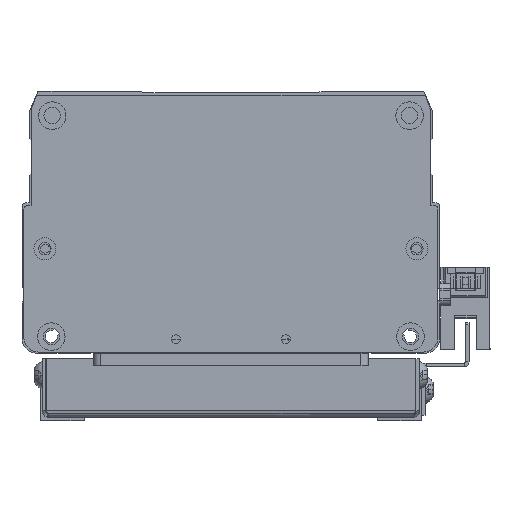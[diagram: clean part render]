
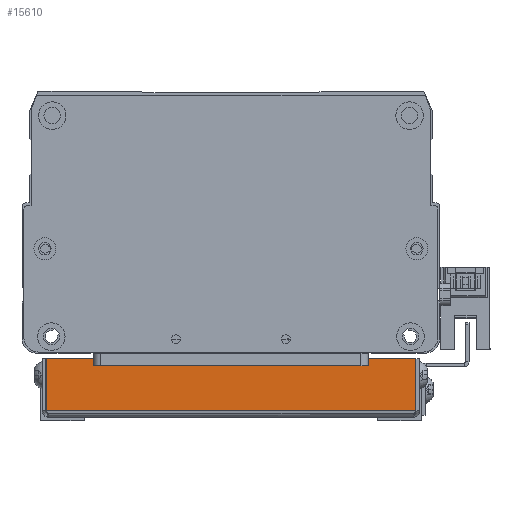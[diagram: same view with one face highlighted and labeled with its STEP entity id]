
A CAD part, front view. The second image highlights one B-rep face of the part: STEP entity #15610.
In plain terms, the highlighted planar face has unit normal (0, -1, 0) as drawn and (0, 0, -1) by its records, which use the part's own axes.
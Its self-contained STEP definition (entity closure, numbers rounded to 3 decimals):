
#637 = CARTESIAN_POINT ( 'NONE',  ( 184.072, 128.497, -9.273 ) ) ;
#1480 = ORIENTED_EDGE ( 'NONE', *, *, #25748, .F. ) ;
#2643 = VECTOR ( 'NONE', #26203, 1000. ) ;
#3484 = ORIENTED_EDGE ( 'NONE', *, *, #11160, .T. ) ;
#3902 = CARTESIAN_POINT ( 'NONE',  ( 83.272, 142.76, -9.273 ) ) ;
#4129 = VERTEX_POINT ( 'NONE', #6941 ) ;
#4223 = VERTEX_POINT ( 'NONE', #24132 ) ;
#4454 = ORIENTED_EDGE ( 'NONE', *, *, #26242, .F. ) ;
#4535 = CARTESIAN_POINT ( 'NONE',  ( 83.272, 142.76, -9.273 ) ) ;
#5396 = ORIENTED_EDGE ( 'NONE', *, *, #25809, .F. ) ;
#6455 = DIRECTION ( 'NONE',  ( 1., 0., 0. ) ) ;
#6941 = CARTESIAN_POINT ( 'NONE',  ( 184.072, 142.76, -9.273 ) ) ;
#8043 = DIRECTION ( 'NONE',  ( -1., 0., 0. ) ) ;
#8220 = VERTEX_POINT ( 'NONE', #4535 ) ;
#9284 = VERTEX_POINT ( 'NONE', #637 ) ;
#11034 = CARTESIAN_POINT ( 'NONE',  ( 83.172, 128.497, -9.273 ) ) ;
#11120 = FACE_OUTER_BOUND ( 'NONE', #20453, .T. ) ;
#11160 = EDGE_CURVE ( 'NONE', #4129, #9284, #11667, .T. ) ;
#11640 = LINE ( 'NONE', #3902, #2643 ) ;
#11667 = LINE ( 'NONE', #21339, #22664 ) ;
#12124 = CARTESIAN_POINT ( 'NONE',  ( 262.181, 142.76, -9.273 ) ) ;
#15126 = DIRECTION ( 'NONE',  ( 0., -1., 0. ) ) ;
#15610 = ADVANCED_FACE ( 'NONE', ( #11120 ), #26154, .F. ) ;
#16115 = LINE ( 'NONE', #12124, #19584 ) ;
#16997 = DIRECTION ( 'NONE',  ( 0., 0., 1. ) ) ;
#17093 = CARTESIAN_POINT ( 'NONE',  ( 262.181, 144.497, -9.273 ) ) ;
#19584 = VECTOR ( 'NONE', #8043, 1000. ) ;
#20453 = EDGE_LOOP ( 'NONE', ( #1480, #3484, #4454, #5396 ) ) ;
#21339 = CARTESIAN_POINT ( 'NONE',  ( 184.072, 142.76, -9.273 ) ) ;
#22664 = VECTOR ( 'NONE', #28048, 1000. ) ;
#22825 = AXIS2_PLACEMENT_3D ( 'NONE', #17093, #16997, #15126 ) ;
#24132 = CARTESIAN_POINT ( 'NONE',  ( 83.272, 128.497, -9.273 ) ) ;
#24794 = LINE ( 'NONE', #11034, #25844 ) ;
#25748 = EDGE_CURVE ( 'NONE', #4129, #8220, #16115, .T. ) ;
#25809 = EDGE_CURVE ( 'NONE', #8220, #4223, #11640, .T. ) ;
#25844 = VECTOR ( 'NONE', #6455, 1000. ) ;
#26154 = PLANE ( 'NONE',  #22825 ) ;
#26203 = DIRECTION ( 'NONE',  ( 0., -1., 0. ) ) ;
#26242 = EDGE_CURVE ( 'NONE', #4223, #9284, #24794, .T. ) ;
#28048 = DIRECTION ( 'NONE',  ( 0., -1., 0. ) ) ;
